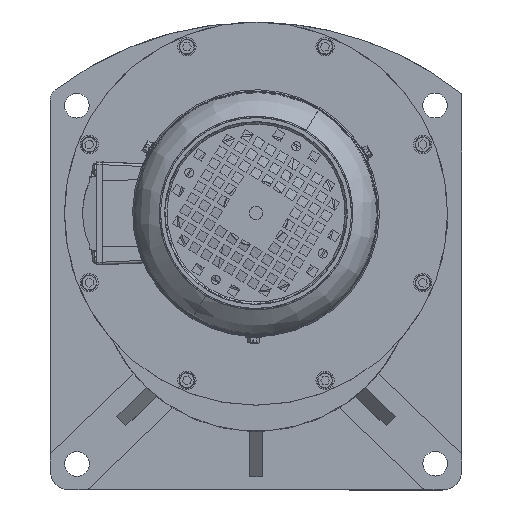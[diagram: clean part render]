
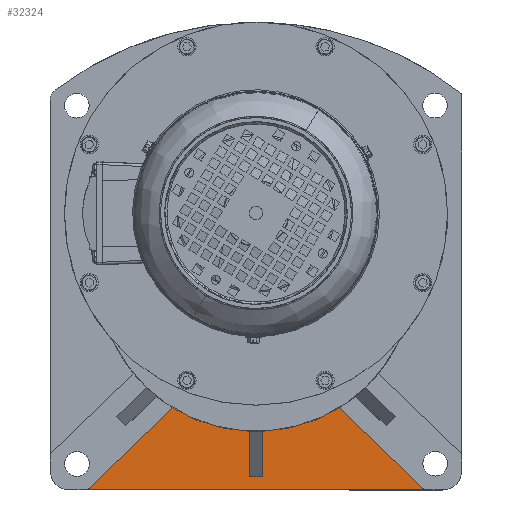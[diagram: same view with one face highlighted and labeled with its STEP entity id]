
A CAD part, top view. The second image highlights one B-rep face of the part: STEP entity #32324.
In plain terms, the highlighted planar face has unit normal (0, 0, 1).
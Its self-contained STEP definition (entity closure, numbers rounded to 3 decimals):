
#1490 = CARTESIAN_POINT ( 'NONE',  ( 5., -112.897, 17. ) ) ;
#3340 = CARTESIAN_POINT ( 'NONE',  ( 5., -148., 17. ) ) ;
#4851 = ORIENTED_EDGE ( 'NONE', *, *, #26421, .T. ) ;
#8186 = PLANE ( 'NONE',  #29716 ) ;
#8289 = CIRCLE ( 'NONE', #82561, 122.002 ) ;
#8565 = EDGE_CURVE ( 'NONE', #81993, #33100, #21617, .T. ) ;
#10349 = CARTESIAN_POINT ( 'NONE',  ( 0., 9.002, 17. ) ) ;
#11656 = ORIENTED_EDGE ( 'NONE', *, *, #8565, .T. ) ;
#12330 = CARTESIAN_POINT ( 'NONE',  ( -129.821, -158., 17. ) ) ;
#14717 = AXIS2_PLACEMENT_3D ( 'NONE', #10349, #60566, #17656 ) ;
#15531 = CARTESIAN_POINT ( 'NONE',  ( 5., -143., 17. ) ) ;
#17656 = DIRECTION ( 'NONE',  ( -1., 0., 0. ) ) ;
#17897 = VECTOR ( 'NONE', #76597, 1000. ) ;
#17971 = DIRECTION ( 'NONE',  ( -1., 0., 0. ) ) ;
#18342 = ORIENTED_EDGE ( 'NONE', *, *, #20505, .T. ) ;
#18633 = VERTEX_POINT ( 'NONE', #1490 ) ;
#19991 = CARTESIAN_POINT ( 'NONE',  ( -143.5, -143., 17. ) ) ;
#20505 = EDGE_CURVE ( 'NONE', #18633, #58429, #56102, .T. ) ;
#20691 = CARTESIAN_POINT ( 'NONE',  ( 129.821, -158., 17. ) ) ;
#21617 = LINE ( 'NONE', #77514, #38471 ) ;
#22546 = EDGE_LOOP ( 'NONE', ( #18342, #4851, #11656, #78441, #74210, #90600, #89013, #36915 ) ) ;
#26421 = EDGE_CURVE ( 'NONE', #58429, #81993, #32047, .T. ) ;
#26478 = EDGE_CURVE ( 'NONE', #72376, #33100, #8289, .T. ) ;
#26840 = DIRECTION ( 'NONE',  ( 0., 0., 1. ) ) ;
#27152 = DIRECTION ( 'NONE',  ( -1., 0., 0. ) ) ;
#27524 = VECTOR ( 'NONE', #65704, 1000. ) ;
#29218 = DIRECTION ( 'NONE',  ( 1., 0., 0. ) ) ;
#29716 = AXIS2_PLACEMENT_3D ( 'NONE', #19991, #57777, #29218 ) ;
#30185 = CARTESIAN_POINT ( 'NONE',  ( -143.5, -158., 17. ) ) ;
#32047 = LINE ( 'NONE', #39398, #67726 ) ;
#32324 = ADVANCED_FACE ( 'NONE', ( #62839 ), #8186, .T. ) ;
#33100 = VERTEX_POINT ( 'NONE', #59722 ) ;
#33827 = CARTESIAN_POINT ( 'NONE',  ( 0., 9.002, 17. ) ) ;
#34063 = CARTESIAN_POINT ( 'NONE',  ( 64.101, -94.803, 17. ) ) ;
#34503 = CARTESIAN_POINT ( 'NONE',  ( -5., -148., 17. ) ) ;
#36281 = CIRCLE ( 'NONE', #14717, 122.002 ) ;
#36915 = ORIENTED_EDGE ( 'NONE', *, *, #75957, .F. ) ;
#38471 = VECTOR ( 'NONE', #77114, 1000. ) ;
#39398 = CARTESIAN_POINT ( 'NONE',  ( -143.5, -148., 17. ) ) ;
#40164 = CARTESIAN_POINT ( 'NONE',  ( -64.101, -94.803, 17. ) ) ;
#42358 = DIRECTION ( 'NONE',  ( -0.721, 0.693, 0. ) ) ;
#48108 = CARTESIAN_POINT ( 'NONE',  ( -129.821, -158., 17. ) ) ;
#48811 = VERTEX_POINT ( 'NONE', #12330 ) ;
#53526 = VECTOR ( 'NONE', #69128, 1000. ) ;
#53956 = VECTOR ( 'NONE', #42358, 1000. ) ;
#56102 = LINE ( 'NONE', #15531, #17897 ) ;
#57682 = VERTEX_POINT ( 'NONE', #34063 ) ;
#57777 = DIRECTION ( 'NONE',  ( 0., 0., 1. ) ) ;
#58429 = VERTEX_POINT ( 'NONE', #3340 ) ;
#59722 = CARTESIAN_POINT ( 'NONE',  ( -5., -112.897, 17. ) ) ;
#60566 = DIRECTION ( 'NONE',  ( 0., 0., 1. ) ) ;
#61653 = EDGE_CURVE ( 'NONE', #84682, #57682, #91625, .T. ) ;
#62839 = FACE_OUTER_BOUND ( 'NONE', #22546, .T. ) ;
#64206 = EDGE_CURVE ( 'NONE', #72376, #48811, #88961, .T. ) ;
#65704 = DIRECTION ( 'NONE',  ( 1., 0., 0. ) ) ;
#67726 = VECTOR ( 'NONE', #27152, 1000. ) ;
#69128 = DIRECTION ( 'NONE',  ( -0.721, -0.693, 0. ) ) ;
#72376 = VERTEX_POINT ( 'NONE', #40164 ) ;
#73354 = EDGE_CURVE ( 'NONE', #48811, #84682, #84427, .T. ) ;
#74210 = ORIENTED_EDGE ( 'NONE', *, *, #64206, .T. ) ;
#75957 = EDGE_CURVE ( 'NONE', #18633, #57682, #36281, .T. ) ;
#76597 = DIRECTION ( 'NONE',  ( 0., -1., 0. ) ) ;
#77114 = DIRECTION ( 'NONE',  ( 0., 1., 0. ) ) ;
#77514 = CARTESIAN_POINT ( 'NONE',  ( -5., -143., 17. ) ) ;
#78441 = ORIENTED_EDGE ( 'NONE', *, *, #26478, .F. ) ;
#81993 = VERTEX_POINT ( 'NONE', #34503 ) ;
#82561 = AXIS2_PLACEMENT_3D ( 'NONE', #33827, #26840, #17971 ) ;
#83958 = CARTESIAN_POINT ( 'NONE',  ( 129.821, -158., 17. ) ) ;
#84427 = LINE ( 'NONE', #30185, #27524 ) ;
#84682 = VERTEX_POINT ( 'NONE', #83958 ) ;
#88961 = LINE ( 'NONE', #48108, #53526 ) ;
#89013 = ORIENTED_EDGE ( 'NONE', *, *, #61653, .T. ) ;
#90600 = ORIENTED_EDGE ( 'NONE', *, *, #73354, .T. ) ;
#91625 = LINE ( 'NONE', #20691, #53956 ) ;
